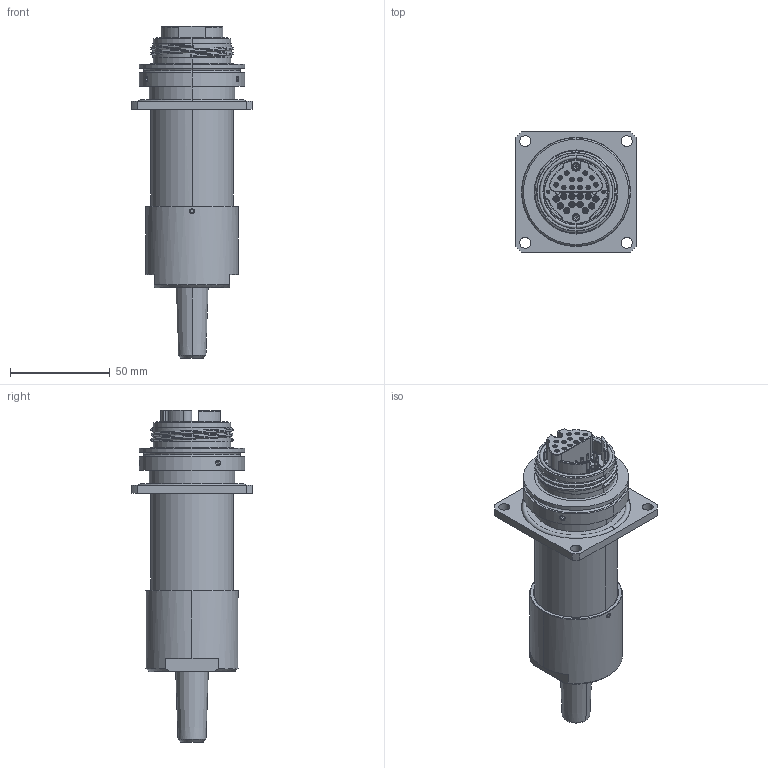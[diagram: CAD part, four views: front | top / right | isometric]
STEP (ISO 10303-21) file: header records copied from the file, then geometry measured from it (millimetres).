
FILE_DESCRIPTION (( 'STEP AP214' ), '1' );
FILE_NAME ('QFOCA3-RIFX-24X-X-SX.STEP', '2025-08-05T21:12:52', ( '' ), ( '' ), 'SwSTEP 2.0', 'SolidWorks 2024', '' );
FILE_SCHEMA (( 'AUTOMOTIVE_DESIGN' ));
Length unit declared in the file: inch
Products named in the file (1): QFOCA3-RIFX-24X-X-SX
Bounding box: 60.2 x 60.2 x 166.04 mm (x, y, z)
Volume: 196855.6 mm3; surface area: 44130.8 mm2
Topology: 17 solids, 35 shells, 1259 faces, 2844 edges, 1699 vertices
Faces by surface type: cylinder 442, cone 336, torus 236, plane 235, bspline 10
Entity records: 37067 total; most frequent: CARTESIAN_POINT 7832, DIRECTION 6738, ORIENTED_EDGE 5684, AXIS2_PLACEMENT_3D 2845, EDGE_CURVE 2842, VERTEX_POINT 1699, CIRCLE 1595, EDGE_LOOP 1383
